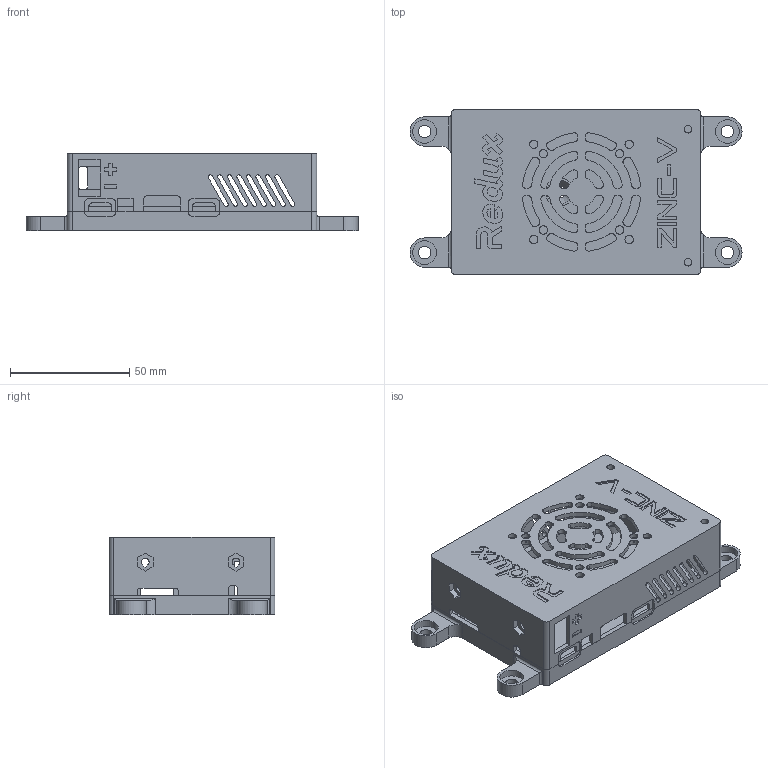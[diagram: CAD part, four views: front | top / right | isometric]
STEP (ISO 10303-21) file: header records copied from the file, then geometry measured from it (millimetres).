
FILE_DESCRIPTION(/* description */ ('STEP AP242','CAx-IF Rec.Pracs.---Representation and Presentation of Product Manufacturing Information (PMI)---4.0---2014-10-13','CAx-IF Rec.Pracs.---3D Tessellated Geometry---0.4---2014-09-14','2;1'),/* implementation_level */ '2;1');
FILE_NAME(/* name */ 'ZINCVOPICASE',/* time_stamp */ '2024-09-15T14:13:24Z');
FILE_SCHEMA (('AP242_MANAGED_MODEL_BASED_3D_ENGINEERING_MIM_LF { 1 0 10303 442 1 1 4 }'));
Length unit declared in the file: metre
Products named in the file (2): ZincOpi5-Lid; ZincOpi5-Base
Bounding box: 139.3 x 69.5 x 32.7 mm (x, y, z)
Volume: 51378.8 mm3; surface area: 52402.8 mm2
Topology: 2 solids, 2 shells, 763 faces, 2167 edges, 1442 vertices
Faces by surface type: plane 491, cylinder 259, cone 9, bspline 4
Entity records: 25083 total; most frequent: CARTESIAN_POINT 4496, ORIENTED_EDGE 4334, DIRECTION 4191, EDGE_CURVE 2167, LINE 1621, VECTOR 1621, VERTEX_POINT 1442, AXIS2_PLACEMENT_3D 1285
